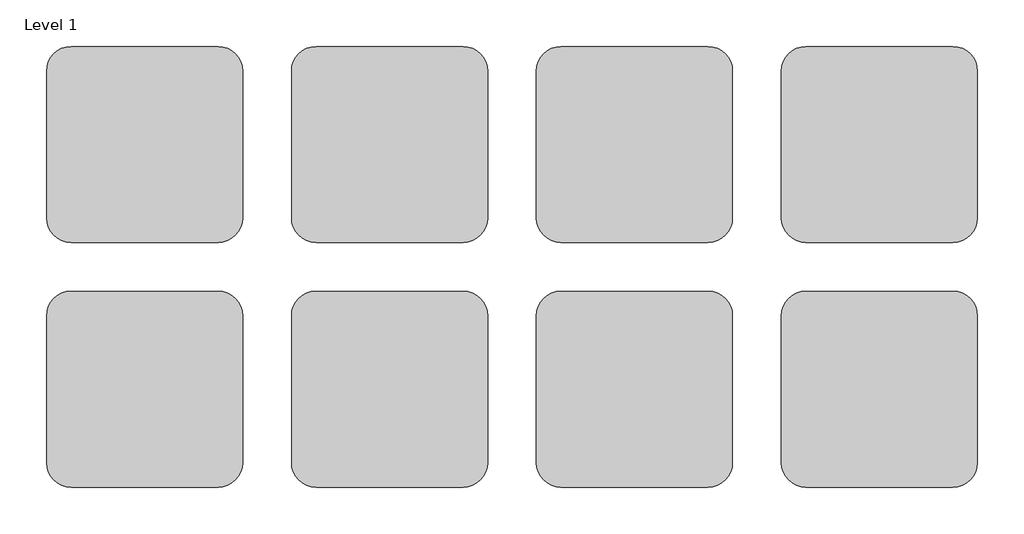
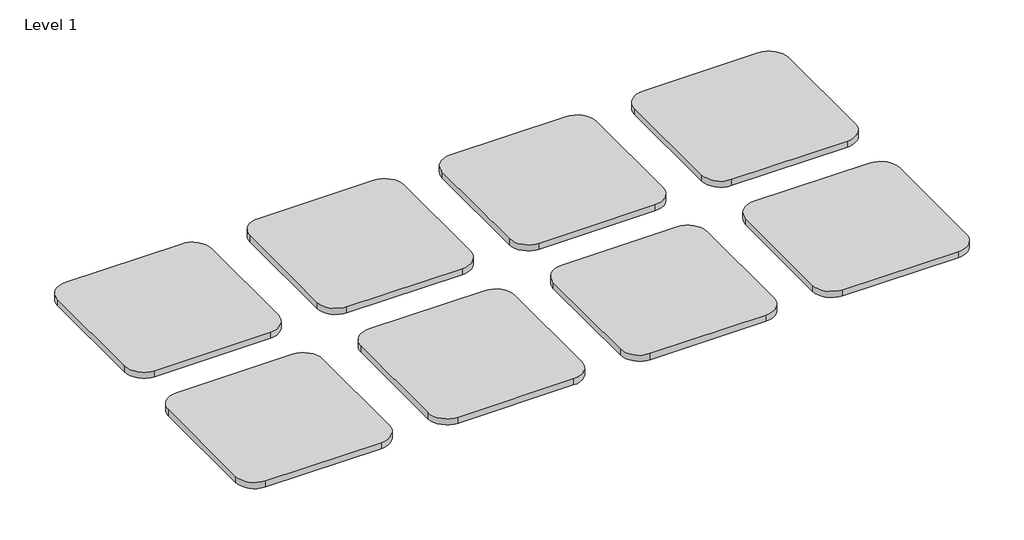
# One storey: 8 proxies.
"""IFC4 building model written with IfcOpenShell, lengths in millimetres."""

import ifcopenshell
import ifcopenshell.guid

model = None  # the IFC model being written
_history = None  # IfcOwnerHistory: only IFC2X3 demands one
_inside = {}  # id of a spatial element -> (the spatial element, [elements in it])
_under = {}  # id of a project, library or spatial element -> (it, [spatial elements below it])
_declared = {}  # id of a project -> (the project, [libraries it declares])
_typed = {}  # id of a type object -> (the type object, [elements of that type])
_made_of = {}  # id of a material, layer set ... -> (it, [elements and type objects made of it])


def new_model(schema):
    """Start an empty IFC model of exactly this schema.

    Asked for "IFC4X3", IfcOpenShell would pick the latest addendum, in which some entities
    have other attributes; the version numbers below select the first issue.
    IFC2X3 requires an IfcOwnerHistory on every rooted entity: one is made here for all.
    """
    global model, _history
    if schema == "IFC4X3":
        model = ifcopenshell.file(schema_version=(4, 3, 0, 0))
    else:
        model = ifcopenshell.file(schema=schema)
    _inside.clear()
    _under.clear()
    _declared.clear()
    _typed.clear()
    _made_of.clear()
    _history = None
    if model.schema == "IFC2X3":
        org = make("IfcOrganization", Name="unknown")
        user = make(
            "IfcPersonAndOrganization",
            ThePerson=make("IfcPerson", FamilyName="unknown"),
            TheOrganization=org,
        )
        app = make(
            "IfcApplication",
            ApplicationDeveloper=org,
            Version="unknown",
            ApplicationFullName="unknown",
            ApplicationIdentifier="unknown",
        )
        _history = make(
            "IfcOwnerHistory",
            OwningUser=user,
            OwningApplication=app,
            ChangeAction="ADDED",
            CreationDate=0,
        )
    return model


def make(cls, **values):
    """One entity of the class cls with the attributes given. An attribute that is None is left unset."""
    return model.create_entity(
        cls, **{name: value for name, value in values.items() if value is not None}
    )


def rooted(cls, **values):
    """An entity with a GlobalId (a new one), such as an element, a storey or a relation."""
    return make(cls, GlobalId=ifcopenshell.guid.new(), OwnerHistory=_history, **values)


def si_unit(unit_type, name, prefix=None):
    """IfcSIUnit, for example si_unit("LENGTHUNIT", "METRE", prefix="MILLI")."""
    return make("IfcSIUnit", UnitType=unit_type, Prefix=prefix, Name=name)


def assignment(units):
    """IfcUnitAssignment: the units of a project."""
    return None if units is None else make("IfcUnitAssignment", Units=units)


def point(xyz):
    """IfcCartesianPoint."""
    return None if xyz is None else make("IfcCartesianPoint", Coordinates=xyz)


def direction(xyz):
    """IfcDirection."""
    return None if xyz is None else make("IfcDirection", DirectionRatios=xyz)


def frame(location, z_axis=None, x_axis=None):
    """IfcAxis2Placement3D, a coordinate frame: its origin and axes. An axis left out is left unset."""
    return make(
        "IfcAxis2Placement3D",
        Location=point(location),
        Axis=direction(z_axis),
        RefDirection=direction(x_axis),
    )


def frame_2d(location, x_axis=None):
    """IfcAxis2Placement2D, a coordinate frame in the plane: its origin and x axis."""
    return make(
        "IfcAxis2Placement2D", Location=point(location), RefDirection=direction(x_axis)
    )


def origin():
    """The frame at (0, 0, 0) with its axes left unset."""
    return frame((0.0, 0.0, 0.0))


def origin_with_axes():
    """The frame at (0, 0, 0) with the z axis (0, 0, 1) and the x axis (1, 0, 0) written out."""
    return frame((0.0, 0.0, 0.0), z_axis=(0.0, 0.0, 1.0), x_axis=(1.0, 0.0, 0.0))


def place(relative_to, where):
    """IfcLocalPlacement: puts the frame where relative to a parent placement (None: the world)."""
    return make(
        "IfcLocalPlacement", PlacementRelTo=relative_to, RelativePlacement=where
    )


def context(
    kind, dimensions, precision=None, world=None, true_north=None, identifier=None
):
    """IfcGeometricRepresentationContext, for example the 3D "Model" context."""
    return make(
        "IfcGeometricRepresentationContext",
        ContextIdentifier=identifier,
        ContextType=kind,
        CoordinateSpaceDimension=dimensions,
        Precision=precision,
        WorldCoordinateSystem=world,
        TrueNorth=true_north,
    )


def project(units=None, contexts=None):
    """IfcProject with its units and contexts."""
    return rooted(
        "IfcProject",
        Name="project",
        RepresentationContexts=contexts,
        UnitsInContext=assignment(units),
    )


def spatial(cls, under=None, at=None, **own):
    """A site, building, storey or space (cls), placed at a placement, below another one or the project."""
    s = rooted(cls, ObjectPlacement=at, **own)
    if under is not None:
        _under.setdefault(under.id(), (under, []))[1].append(s)
    return s


def polyline(points):
    """IfcPolyline through the points."""
    return make("IfcPolyline", Points=[point(p) for p in points])


def circle_curve(where, radius):
    """IfcCircle in the frame where."""
    return make("IfcCircle", Position=where, Radius=radius)


def trimmed(basis, trim1, trim2, sense, master):
    """IfcTrimmedCurve: the piece of a basis curve between two trims."""
    return make(
        "IfcTrimmedCurve",
        BasisCurve=basis,
        Trim1=trim1,
        Trim2=trim2,
        SenseAgreement=sense,
        MasterRepresentation=master,
    )


def segment(curve, same_sense, transition):
    """IfcCompositeCurveSegment."""
    return make(
        "IfcCompositeCurveSegment",
        Transition=transition,
        SameSense=same_sense,
        ParentCurve=curve,
    )


def composite_curve(segments, self_intersect=None):
    """IfcCompositeCurve: segments joined end to end."""
    return make("IfcCompositeCurve", Segments=segments, SelfIntersect=self_intersect)


def outline(outer, holes=None, kind="AREA"):
    """IfcArbitraryClosedProfileDef: a profile drawn as a closed curve; with holes, ...WithVoids."""
    if holes is None:
        return make("IfcArbitraryClosedProfileDef", ProfileType=kind, OuterCurve=outer)
    return make(
        "IfcArbitraryProfileDefWithVoids",
        ProfileType=kind,
        OuterCurve=outer,
        InnerCurves=holes,
    )


def extrude(swept, where, along, depth):
    """IfcExtrudedAreaSolid: the profile swept, set in the frame where, extruded along a direction by depth."""
    return make(
        "IfcExtrudedAreaSolid",
        SweptArea=swept,
        Position=where,
        ExtrudedDirection=direction(along),
        Depth=depth,
    )


def shape(context_of_items, identifier, shape_type, items):
    """IfcShapeRepresentation: the items that make up one representation, for example the "Body"."""
    return make(
        "IfcShapeRepresentation",
        ContextOfItems=context_of_items,
        RepresentationIdentifier=identifier,
        RepresentationType=shape_type,
        Items=items,
    )


def source(mapping_origin, context_of_items, identifier, shape_type, items):
    """IfcRepresentationMap: a shape defined once, which mapped items show again and again."""
    return make(
        "IfcRepresentationMap",
        MappingOrigin=mapping_origin,
        MappedRepresentation=shape(context_of_items, identifier, shape_type, items),
    )


def transform(
    local_origin,
    x_axis=None,
    y_axis=None,
    z_axis=None,
    scale=None,
    scale2=None,
    scale3=None,
    uniform=True,
):
    """IfcCartesianTransformationOperator3D, or its non-uniform kind. x_axis, y_axis, z_axis: its Axis1, 2, 3."""
    if uniform:
        return make(
            "IfcCartesianTransformationOperator3D",
            Axis1=direction(x_axis),
            Axis2=direction(y_axis),
            LocalOrigin=point(local_origin),
            Scale=scale,
            Axis3=direction(z_axis),
        )
    return make(
        "IfcCartesianTransformationOperator3DnonUniform",
        Axis1=direction(x_axis),
        Axis2=direction(y_axis),
        LocalOrigin=point(local_origin),
        Scale=scale,
        Axis3=direction(z_axis),
        Scale2=scale2,
        Scale3=scale3,
    )


def mapped(mapping_source, mapping_target):
    """IfcMappedItem: shows the shape of a source again, moved by a transform."""
    return make(
        "IfcMappedItem", MappingSource=mapping_source, MappingTarget=mapping_target
    )


def made_of(thing, what):
    """Note that an element or type object is made of a material, layer set ...; save() writes the relation."""
    if what is not None:
        _made_of.setdefault(what.id(), (what, []))[1].append(thing)
    return thing


def element(
    cls,
    number,
    at=None,
    inside=None,
    cuts=None,
    type_object=None,
    material=None,
    context=None,
    identifier="Body",
    shape_type=None,
    held_by="IfcProductDefinitionShape",
    body=None,
    shapes=None,
    **own,
):
    """One element of the class cls, such as IfcWall. Its Tag is "e" and its number.

    at: its placement. inside: the storey or other place that contains it. cuts: it is an
    opening in that element (IfcRelVoidsElement). A single representation is given by context,
    identifier, shape_type and body (its items); several are given by shapes. held_by: the class
    of the entity that holds the representations. save() writes the other relations.
    """
    e = rooted(cls, Tag="e%d" % number, ObjectPlacement=at, **own)
    if body is not None:
        shapes = [shape(context, identifier, shape_type, body)]
    if shapes is not None:
        e.Representation = make(held_by, Representations=shapes)
    if inside is not None:
        _inside.setdefault(inside.id(), (inside, []))[1].append(e)
    if cuts is not None:
        rooted(
            "IfcRelVoidsElement", RelatingBuildingElement=cuts, RelatedOpeningElement=e
        )
    if type_object is not None:
        _typed.setdefault(type_object.id(), (type_object, []))[1].append(e)
    return made_of(e, material)


def aggregate(whole, parts):
    """IfcRelAggregates: a whole, such as a stair, and the parts it consists of."""
    return rooted("IfcRelAggregates", RelatingObject=whole, RelatedObjects=parts)


def save(model, path):
    """Write the relations noted so far, then the file.

    IfcRelAggregates (storeys below a building ...), IfcRelContainedInSpatialStructure (elements
    in a storey), IfcRelDefinesByType, IfcRelAssociatesMaterial and IfcRelDeclares: one each for
    every whole, place, type object, material and project.
    """
    for whole, parts in _under.values():
        aggregate(whole, parts)
    for where, things in _inside.values():
        rooted(
            "IfcRelContainedInSpatialStructure",
            RelatedElements=things,
            RelatingStructure=where,
        )
    for kind, things in _typed.values():
        rooted("IfcRelDefinesByType", RelatedObjects=things, RelatingType=kind)
    for what, things in _made_of.values():
        rooted("IfcRelAssociatesMaterial", RelatedObjects=things, RelatingMaterial=what)
    for by, libraries in _declared.values():
        rooted("IfcRelDeclares", RelatingContext=by, RelatedDefinitions=libraries)
    model.write(path)


def materialsample_type_1_9638d12c(model_context):
    return source(origin(), model_context, "Body", "SweptSolid", [
        extrude(outline(composite_curve([segment(polyline([(533.4, 0.0), (76.2, 0.0)]), True, "CONTINUOUS"), segment(trimmed(circle_curve(frame_2d((76.2, 76.2)), 76.2), [point((76.2, 0.0))], [point((0.0, 76.2))], False, "CARTESIAN"), True, "CONTINUOUS"), segment(polyline([(0.0, 76.2), (0.0, 533.4)]), True, "CONTINUOUS"), segment(trimmed(circle_curve(frame_2d((76.2, 533.4)), 76.2), [point((0.0, 533.4))], [point((76.2, 609.6))], False, "CARTESIAN"), True, "CONTINUOUS"), segment(polyline([(76.2, 609.6), (533.4, 609.6)]), True, "CONTINUOUS"), segment(trimmed(circle_curve(frame_2d((533.4, 533.4)), 76.2), [point((533.4, 609.6))], [point((609.6, 533.4))], False, "CARTESIAN"), True, "CONTINUOUS"), segment(polyline([(609.6, 533.4), (609.6, 76.2)]), True, "CONTINUOUS"), segment(trimmed(circle_curve(frame_2d((533.4, 76.2)), 76.2), [point((609.6, 76.2))], [point((533.4, 0.0))], False, "CARTESIAN"), True, "CONTINUOUS")], self_intersect=False)), origin_with_axes(), (0.0, 0.0, 1.0), 25.4),
    ])


model = new_model("IFC4")

# Units and contexts
model_context = context("Model", 3, world=origin())
ifc_project = project(units=[si_unit("LENGTHUNIT", "METRE", prefix="MILLI")], contexts=[model_context])

# Site, building, storey
site = spatial("IfcSite", under=ifc_project)
building = spatial("IfcBuilding", under=site)
storey = spatial("IfcBuildingStorey", under=building, Name="Level 1", Elevation=0.0)

# Proxies
placement = place(None, origin())
materialsample_type_1_shape = materialsample_type_1_9638d12c(model_context)
element("IfcBuildingElementProxy", 1, Name="MaterialSample : Type 1", ObjectType="MaterialSample : Type 1", at=placement, inside=storey, context=model_context, shape_type="MappedRepresentation", body=[
    mapped(materialsample_type_1_shape, transform((357.7304433, 1835.3127093, 0.0), x_axis=(1.0, 0.0, 0.0), y_axis=(0.0, 1.0, 0.0), z_axis=(0.0, 0.0, 1.0))),
])
element("IfcBuildingElementProxy", 2, Name="MaterialSample : Type 1", ObjectType="MaterialSample : Type 1", at=placement, inside=storey, context=model_context, shape_type="MappedRepresentation", body=[
    mapped(materialsample_type_1_shape, transform((1119.7304433, 1835.3127093, 0.0), x_axis=(1.0, 0.0, 0.0), y_axis=(0.0, 1.0, 0.0), z_axis=(0.0, 0.0, 1.0))),
])
element("IfcBuildingElementProxy", 3, Name="MaterialSample : Type 1", ObjectType="MaterialSample : Type 1", at=placement, inside=storey, context=model_context, shape_type="MappedRepresentation", body=[
    mapped(materialsample_type_1_shape, transform((1881.7304433, 1835.3127093, 0.0), x_axis=(1.0, 0.0, 0.0), y_axis=(0.0, 1.0, 0.0), z_axis=(0.0, 0.0, 1.0))),
])
element("IfcBuildingElementProxy", 4, Name="MaterialSample : Type 1", ObjectType="MaterialSample : Type 1", at=placement, inside=storey, context=model_context, shape_type="MappedRepresentation", body=[
    mapped(materialsample_type_1_shape, transform((357.7304433, 1073.3127093, 0.0), x_axis=(1.0, 0.0, 0.0), y_axis=(0.0, 1.0, 0.0), z_axis=(0.0, 0.0, 1.0))),
])
element("IfcBuildingElementProxy", 5, Name="MaterialSample : Type 1", ObjectType="MaterialSample : Type 1", at=placement, inside=storey, context=model_context, shape_type="MappedRepresentation", body=[
    mapped(materialsample_type_1_shape, transform((1119.7304433, 1073.3127093, 0.0), x_axis=(1.0, 0.0, 0.0), y_axis=(0.0, 1.0, 0.0), z_axis=(0.0, 0.0, 1.0))),
])
element("IfcBuildingElementProxy", 6, Name="MaterialSample : Type 1", ObjectType="MaterialSample : Type 1", at=placement, inside=storey, context=model_context, shape_type="MappedRepresentation", body=[
    mapped(materialsample_type_1_shape, transform((1881.7304433, 1073.3127093, 0.0), x_axis=(1.0, 0.0, 0.0), y_axis=(0.0, 1.0, 0.0), z_axis=(0.0, 0.0, 1.0))),
])
element("IfcBuildingElementProxy", 7, Name="MaterialSample : Type 1", ObjectType="MaterialSample : Type 1", at=placement, inside=storey, context=model_context, shape_type="MappedRepresentation", body=[
    mapped(materialsample_type_1_shape, transform((2643.7304433, 1073.3127093, 0.0), x_axis=(1.0, 0.0, 0.0), y_axis=(0.0, 1.0, 0.0), z_axis=(0.0, 0.0, 1.0))),
])
element("IfcBuildingElementProxy", 8, Name="MaterialSample : Type 1", ObjectType="MaterialSample : Type 1", at=placement, inside=storey, context=model_context, shape_type="MappedRepresentation", body=[
    mapped(materialsample_type_1_shape, transform((2643.7304433, 1835.3127093, 0.0), x_axis=(1.0, 0.0, 0.0), y_axis=(0.0, 1.0, 0.0), z_axis=(0.0, 0.0, 1.0))),
])

save(model, "model.ifc")
